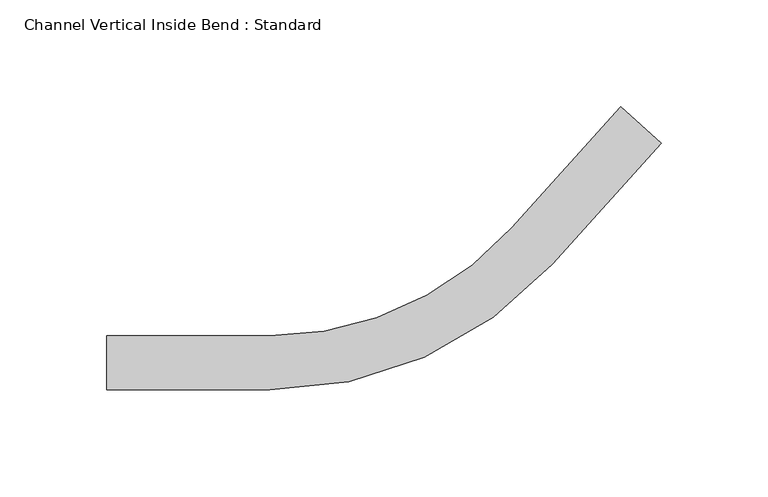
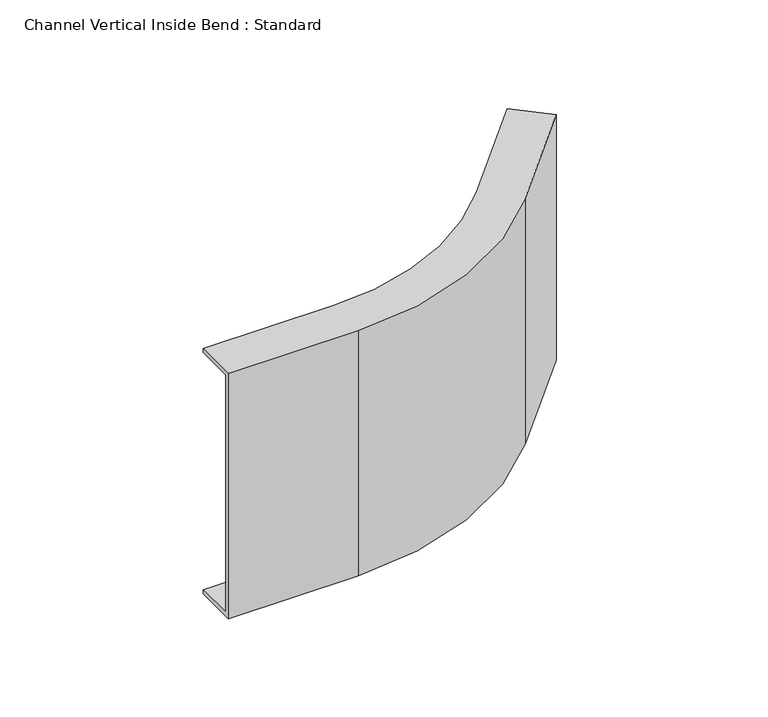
"""IFC4 building model written with IfcOpenShell, lengths in millimetres: cable carrier fitting geometry, Channel Vertical Inside Bend : Standard."""

from ifc_helpers import new_model, si_unit, frame, origin, place, context, project, spatial, polyline, circle_curve, source, transform, mapped, element, save
from ifc_brep_helpers import plane_surface, cylinder_surface, revolved_surface, advanced_brep


def channel_vertical_inside_bend_standard_702a71ab(model_context):
    return source(origin(), model_context, "Body", "AdvancedBrep", [
        advanced_brep(
        [(-149.7072559, 12.7, 76.2), (-149.7072559, 12.7, 73.66), (-149.7072559, -10.16, 73.66), (-149.7072559, -10.16, -73.66), (-149.7072559, 12.7, -73.66), (-149.7072559, 12.7, -76.2), (-149.7072559, -12.7, -76.2), (-149.7072559, -12.7, 76.2), (90.7357677, 119.7521313, 76.2), (109.6116462, 102.7562139, 76.2), (109.6116462, 102.7562139, -76.2), (90.7357677, 119.7521313, -76.2), (90.7357677, 119.7521313, -73.66), (107.7240584, 104.4558056, -73.66), (107.7240584, 104.4558056, 73.66), (90.7357677, 119.7521313, 73.66), (-73.5072559, -12.7, 76.2), (58.623894, 46.1285782, 76.2), (39.7480155, 63.1244956, 76.2), (-73.5072559, 12.7, 76.2), (-73.5072559, -12.7, -76.2), (-73.5072559, 12.7, -76.2), (39.7480155, 63.1244956, -76.2), (58.623894, 46.1285782, -76.2), (-73.5072559, 12.7, -73.66), (-73.5072559, -10.16, -73.66), (56.7363062, 47.8281699, -73.66), (39.7480155, 63.1244956, -73.66), (-73.5072559, -10.16, 73.66), (-73.5072559, 12.7, 73.66), (39.7480155, 63.1244956, 73.66), (56.7363062, 47.8281699, 73.66)],
        [
            (0, 1),
            (1, 2),
            (2, 3),
            (3, 4),
            (4, 5),
            (5, 6),
            (6, 7),
            (7, 0),
            (8, 9),
            (9, 10),
            (10, 11),
            (11, 12),
            (12, 13),
            (13, 14),
            (14, 15),
            (15, 8),
            (7, 16),
            (16, 17, circle_curve(frame((-73.5072559, 165.1, 76.2), z_axis=(0.0, 0.0, 1.0), x_axis=(0.0, -1.0, 0.0)), 177.8)),
            (17, 9),
            (8, 18),
            (18, 19, circle_curve(frame((-73.5072559, 165.1, 76.2), z_axis=(0.0, 0.0, -1.0), x_axis=(0.0, -1.0, 0.0)), 152.4)),
            (19, 0),
            (6, 20),
            (20, 16),
            (5, 21),
            (21, 22, circle_curve(frame((-73.5072559, 165.1, -76.2), z_axis=(0.0, 0.0, 1.0), x_axis=(0.0, -1.0, 0.0)), 152.4)),
            (22, 11),
            (10, 23),
            (23, 20, circle_curve(frame((-73.5072559, 165.1, -76.2), z_axis=(0.0, 0.0, -1.0), x_axis=(0.0, -1.0, 0.0)), 177.8)),
            (4, 24),
            (24, 21),
            (3, 25),
            (25, 26, circle_curve(frame((-73.5072559, 165.1, -73.66), z_axis=(0.0, 0.0, 1.0), x_axis=(0.0, -1.0, 0.0)), 175.26)),
            (26, 13),
            (12, 27),
            (27, 24, circle_curve(frame((-73.5072559, 165.1, -73.66), z_axis=(0.0, 0.0, -1.0), x_axis=(0.0, -1.0, 0.0)), 152.4)),
            (2, 28),
            (28, 25),
            (1, 29),
            (29, 30, circle_curve(frame((-73.5072559, 165.1, 73.66), z_axis=(0.0, 0.0, 1.0), x_axis=(0.0, -1.0, 0.0)), 152.4)),
            (30, 15),
            (14, 31),
            (31, 28, circle_curve(frame((-73.5072559, 165.1, 73.66), z_axis=(0.0, 0.0, -1.0), x_axis=(0.0, -1.0, 0.0)), 175.26)),
            (19, 29),
            (23, 17),
            (27, 22),
            (31, 26),
            (18, 30),
        ],
        [
            plane_surface(frame((-149.7072559, 0.0, 0.0), z_axis=(-1.0, 0.0, 0.0), x_axis=(0.0, 0.0, 1.0))),
            plane_surface(frame((100.1737069, 111.2541726, 0.0), z_axis=(0.669130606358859, 0.7431448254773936, 0.0), x_axis=(0.0, 0.0, 1.0))),
            plane_surface(frame((-149.7072559, -12.7, 76.2), z_axis=(0.0, 0.0, 1.0), x_axis=(1.0, 0.0, 0.0))),
            plane_surface(frame((-149.7072559, -12.7, -76.2), z_axis=(0.0, -1.0, 0.0), x_axis=(1.0, 0.0, 0.0))),
            plane_surface(frame((-149.7072559, 12.7, -76.2), z_axis=(0.0, 0.0, -1.0), x_axis=(1.0, 0.0, 0.0))),
            plane_surface(frame((-149.7072559, 12.7, -73.66), z_axis=(0.0, 1.0, 0.0), x_axis=(1.0, 0.0, 0.0))),
            plane_surface(frame((-149.7072559, -10.16, -73.66), z_axis=(0.0, 0.0, 1.0), x_axis=(1.0, 0.0, 0.0))),
            plane_surface(frame((-149.7072559, -10.16, 73.66), z_axis=(0.0, 1.0, 0.0), x_axis=(1.0, 0.0, 0.0))),
            plane_surface(frame((-149.7072559, 12.7, 73.66), z_axis=(0.0, 0.0, -1.0), x_axis=(1.0, 0.0, 0.0))),
            plane_surface(frame((-149.7072559, 12.7, 76.2), z_axis=(0.0, 1.0, 0.0), x_axis=(1.0, 0.0, 0.0))),
            cylinder_surface(frame((-73.5072559, 165.1, 0.0), z_axis=(0.0, 0.0, 1.0), x_axis=(0.0, -1.0, 0.0)), 177.8),
            revolved_surface(polyline([(-73.5072559, 12.699999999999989, -73.66), (-73.5072559, 12.699999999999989, -76.2)]), (-73.5072559, 165.1, 0.0), (0.0, 0.0, 1.0)),
            revolved_surface(polyline([(-73.5072559, -10.159999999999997, 73.66), (-73.5072559, -10.159999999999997, -73.66)]), (-73.5072559, 165.1, 0.0), (0.0, 0.0, 1.0)),
            revolved_surface(polyline([(-73.5072559, 12.699999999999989, 76.2), (-73.5072559, 12.699999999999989, 73.66)]), (-73.5072559, 165.1, 0.0), (0.0, 0.0, 1.0)),
            plane_surface(frame((58.623894, 46.1285782, -76.2), z_axis=(0.7431448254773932, -0.6691306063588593, 0.0), x_axis=(0.6691306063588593, 0.7431448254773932, 0.0))),
            plane_surface(frame((39.7480155, 63.1244956, -73.66), z_axis=(-0.7431448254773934, 0.6691306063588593, 0.0), x_axis=(0.6691306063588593, 0.7431448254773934, 0.0))),
            plane_surface(frame((56.7363062, 47.8281699, 73.66), z_axis=(-0.7431448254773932, 0.6691306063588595, 0.0), x_axis=(0.6691306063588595, 0.7431448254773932, 0.0))),
            plane_surface(frame((39.7480155, 63.1244956, 76.2), z_axis=(-0.7431448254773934, 0.6691306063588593, 0.0), x_axis=(0.6691306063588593, 0.7431448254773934, 0.0))),
        ],
        [
            (0, [[1, 2, 3, 4, 5, 6, 7, 8]]),
            (1, [[9, 10, 11, 12, 13, 14, 15, 16]]),
            (2, [[-8, 17, 18, 19, -9, 20, 21, 22]]),
            (3, [[-7, 23, 24, -17]]),
            (4, [[-6, 25, 26, 27, -11, 28, 29, -23]]),
            (5, [[-5, 30, 31, -25]]),
            (6, [[-4, 32, 33, 34, -13, 35, 36, -30]]),
            (7, [[-3, 37, 38, -32]]),
            (8, [[-2, 39, 40, 41, -15, 42, 43, -37]]),
            (9, [[-1, -22, 44, -39]]),
            (10, [[-18, -24, -29, 45]]),
            (11, [[-26, -31, -36, 46]]),
            (12, [[-33, -38, -43, 47]]),
            (13, [[-40, -44, -21, 48]]),
            (14, [[-45, -28, -10, -19]]),
            (15, [[-46, -35, -12, -27]]),
            (16, [[-47, -42, -14, -34]]),
            (17, [[-48, -20, -16, -41]]),
        ],
    ),
    ])


if __name__ == "__main__":
    model = new_model("IFC4")
    model_context = context("Model", 3, world=origin())
    ifc_project = project(units=[si_unit("LENGTHUNIT", "METRE", prefix="MILLI")], contexts=[model_context])
    site = spatial("IfcSite", under=ifc_project)
    building = spatial("IfcBuilding", under=site)
    placement = place(None, origin())
    channel_vertical_inside_bend_standard_shape = channel_vertical_inside_bend_standard_702a71ab(model_context)
    element("IfcCableCarrierFitting", 1, ObjectType="Channel Vertical Inside Bend : Standard", at=placement, inside=building, context=model_context, shape_type="MappedRepresentation", body=[
        mapped(channel_vertical_inside_bend_standard_shape, transform((0.0, 0.0, 0.0), x_axis=(1.0, 0.0, 0.0), y_axis=(0.0, 1.0, 0.0), z_axis=(0.0, 0.0, 1.0))),
    ])
    save(model, "model.ifc")
